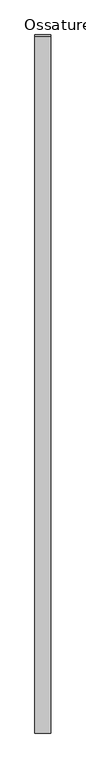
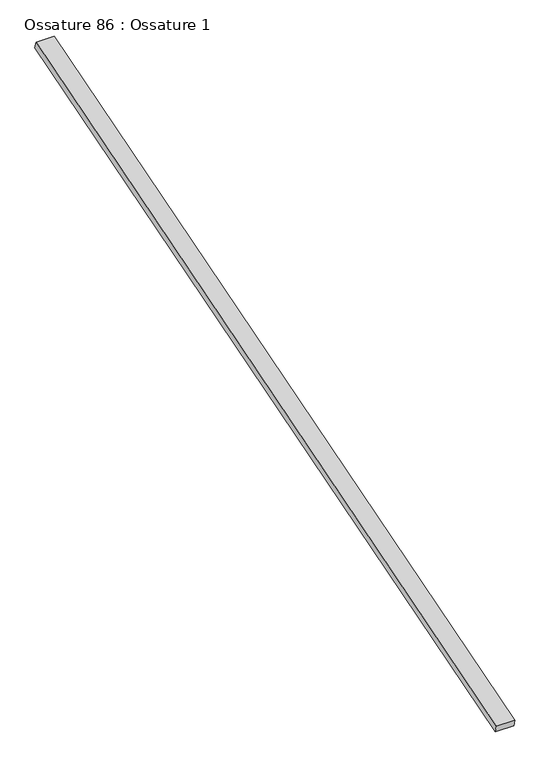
"""IFC4 building model written with IfcOpenShell, lengths in millimetres: beam geometry, Ossature 86 : Ossature 1."""

from ifc_helpers import new_model, si_unit, frame, origin, place, context, project, spatial, polyline, outline, extrude, source, transform, mapped, element, save


def ossature_86_ossature_1_6e745c86(model_context):
    return source(origin(), model_context, "Body", "SweptSolid", [
        extrude(outline(polyline([(0.0, 0.0), (0.0, -4543.0299679), (-100.0, -4543.0299679), (-100.0, 0.0), (0.0, 0.0)])), frame((20766.4466393, -833.3913565, 8153.6336115), z_axis=(0.0, -0.28734788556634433, 0.9578262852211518), x_axis=(-1.0, 0.0, 0.0)), (0.0, 0.0, 1.0), 40.0),
    ])


if __name__ == "__main__":
    model = new_model("IFC4")
    model_context = context("Model", 3, world=origin())
    ifc_project = project(units=[si_unit("LENGTHUNIT", "METRE", prefix="MILLI")], contexts=[model_context])
    site = spatial("IfcSite", under=ifc_project)
    building = spatial("IfcBuilding", under=site)
    placement = place(None, origin())
    ossature_86_ossature_1_shape = ossature_86_ossature_1_6e745c86(model_context)
    element("IfcBeam", 1, ObjectType="Ossature 86 : Ossature 1", at=placement, inside=building, context=model_context, shape_type="MappedRepresentation", body=[
        mapped(ossature_86_ossature_1_shape, transform((0.0, 0.0, 0.0), x_axis=(1.0, 0.0, 0.0), y_axis=(0.0, 1.0, 0.0), z_axis=(0.0, 0.0, 1.0))),
    ])
    save(model, "model.ifc")
